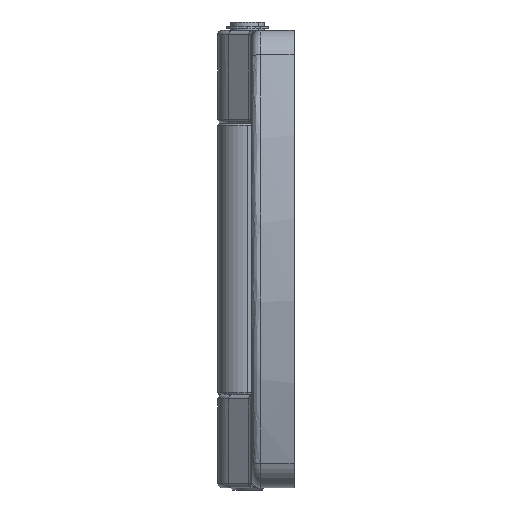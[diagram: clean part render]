
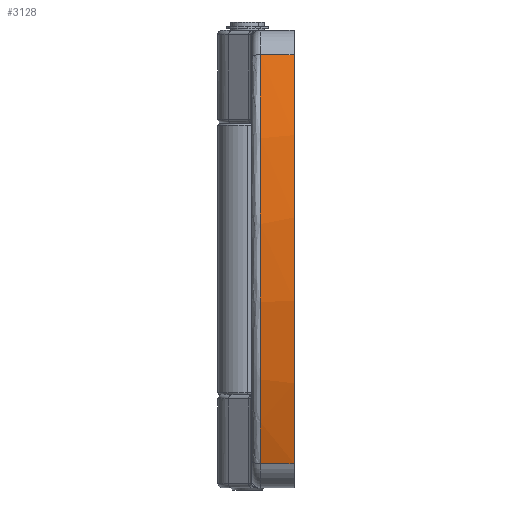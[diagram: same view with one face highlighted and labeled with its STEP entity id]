
A CAD part, left-side view. The second image highlights one B-rep face of the part: STEP entity #3128.
In plain terms, the highlighted cylindrical face has radius 149.652 mm (diameter 299.304 mm), a partial arc.
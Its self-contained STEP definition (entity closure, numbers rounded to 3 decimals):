
#126 = CARTESIAN_POINT ( 'NONE',  ( 109.652, -11., 0. ) ) ;
#152 = CARTESIAN_POINT ( 'NONE',  ( -40., -3., -8.192 ) ) ;
#603 = ORIENTED_EDGE ( 'NONE', *, *, #5267, .T. ) ;
#757 = AXIS2_PLACEMENT_3D ( 'NONE', #126, #6504, #1028 ) ;
#1028 = DIRECTION ( 'NONE',  ( 1., 0., 0. ) ) ;
#1068 = CARTESIAN_POINT ( 'NONE',  ( -36.647, -3., -32.549 ) ) ;
#1191 = CARTESIAN_POINT ( 'NONE',  ( -32., -11., -48.275 ) ) ;
#1638 = EDGE_CURVE ( 'NONE', #5234, #3771, #10170, .T. ) ;
#1759 = CYLINDRICAL_SURFACE ( 'NONE', #8638, 149.652 ) ;
#1982 = CARTESIAN_POINT ( 'NONE',  ( -32., -3., -48.275 ) ) ;
#2134 = VECTOR ( 'NONE', #6724, 1000. ) ;
#2144 = CARTESIAN_POINT ( 'NONE',  ( -32., 97., -48.275 ) ) ;
#2363 = CARTESIAN_POINT ( 'NONE',  ( -32., 97., 48.275 ) ) ;
#2697 = LINE ( 'NONE', #2144, #2134 ) ;
#2776 = CARTESIAN_POINT ( 'NONE',  ( -32., -11., 48.275 ) ) ;
#3097 = EDGE_CURVE ( 'NONE', #3204, #3771, #6896, .T. ) ;
#3128 = ADVANCED_FACE ( 'NONE', ( #11452 ), #1759, .T. ) ;
#3204 = VERTEX_POINT ( 'NONE', #5293 ) ;
#3205 = CARTESIAN_POINT ( 'NONE',  ( -32., -3., -48.275 ) ) ;
#3762 = CARTESIAN_POINT ( 'NONE',  ( -34.643, -3., 40.52 ) ) ;
#3771 = VERTEX_POINT ( 'NONE', #2776 ) ;
#4464 = VECTOR ( 'NONE', #6961, 1000. ) ;
#4677 = CARTESIAN_POINT ( 'NONE',  ( -36.647, -3., 32.549 ) ) ;
#5009 = B_SPLINE_CURVE_WITH_KNOTS ( 'NONE', 3,
 ( #10136, #3762, #4677, #11058, #5624, #152, #6534, #1068, #7435, #1982 ),
 .UNSPECIFIED., .F., .F.,
 ( 4, 2, 2, 2, 4 ),
 ( 0., 0.25, 0.5, 0.75, 1. ),
 .UNSPECIFIED. ) ;
#5102 = EDGE_CURVE ( 'NONE', #3204, #5680, #5009, .T. ) ;
#5165 = DIRECTION ( 'NONE',  ( 1., 0., 0. ) ) ;
#5234 = VERTEX_POINT ( 'NONE', #1191 ) ;
#5267 = EDGE_CURVE ( 'NONE', #5680, #5234, #2697, .T. ) ;
#5293 = CARTESIAN_POINT ( 'NONE',  ( -32., -3., 48.275 ) ) ;
#5624 = CARTESIAN_POINT ( 'NONE',  ( -40., -3., 8.192 ) ) ;
#5680 = VERTEX_POINT ( 'NONE', #3205 ) ;
#6100 = DIRECTION ( 'NONE',  ( 0., -1., 0. ) ) ;
#6504 = DIRECTION ( 'NONE',  ( 0., 1., 0. ) ) ;
#6534 = CARTESIAN_POINT ( 'NONE',  ( -39.326, -3., -16.384 ) ) ;
#6724 = DIRECTION ( 'NONE',  ( 0., -1., 0. ) ) ;
#6819 = ORIENTED_EDGE ( 'NONE', *, *, #5102, .T. ) ;
#6896 = LINE ( 'NONE', #2363, #4464 ) ;
#6961 = DIRECTION ( 'NONE',  ( 0., -1., 0. ) ) ;
#7095 = EDGE_LOOP ( 'NONE', ( #11228, #6819, #603, #8309 ) ) ;
#7435 = CARTESIAN_POINT ( 'NONE',  ( -34.643, -3., -40.52 ) ) ;
#8309 = ORIENTED_EDGE ( 'NONE', *, *, #1638, .T. ) ;
#8638 = AXIS2_PLACEMENT_3D ( 'NONE', #11540, #6100, #5165 ) ;
#10136 = CARTESIAN_POINT ( 'NONE',  ( -32., -3., 48.275 ) ) ;
#10170 = CIRCLE ( 'NONE', #757, 149.652 ) ;
#11058 = CARTESIAN_POINT ( 'NONE',  ( -39.326, -3., 16.384 ) ) ;
#11228 = ORIENTED_EDGE ( 'NONE', *, *, #3097, .F. ) ;
#11452 = FACE_OUTER_BOUND ( 'NONE', #7095, .T. ) ;
#11540 = CARTESIAN_POINT ( 'NONE',  ( 109.652, 97., 0. ) ) ;
